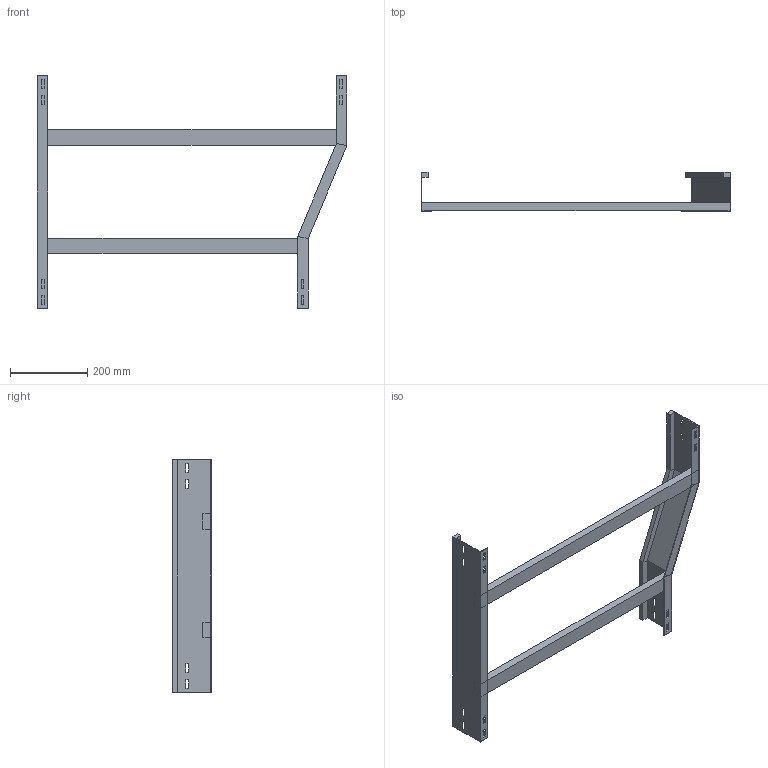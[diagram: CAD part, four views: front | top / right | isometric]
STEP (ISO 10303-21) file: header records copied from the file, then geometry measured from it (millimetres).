
FILE_DESCRIPTION (( 'STEP AP214' ), '1' );
FILE_NAME ('B2X22B7D800XX.step', '2025-09-02T17:20:10', ( '' ), ( '' ), 'SwSTEP 2.0', 'SolidWorks 2023', '' );
FILE_SCHEMA (( 'AUTOMOTIVE_DESIGN' ));
Length unit declared in the file: millimetre
Products named in the file (5): SPONDA DRITTA_H100; TRAVERSINO_800; TRAVERSINO_700; SPONDA RID. SX 800-700_H100; B2X22B7D800XX
Assembly tree (4 placements, depth 2):
  B2X22B7D800XX
    SPONDA DRITTA_H100
    TRAVERSINO_700
    TRAVERSINO_800
    SPONDA RID. SX 800-700_H100
Bounding box: 800 x 100 x 600 mm (x, y, z)
Volume: 1742832 mm3; surface area: 531388 mm2
Topology: 4 solids, 4 shells, 112 faces, 296 edges, 192 vertices
Faces by surface type: plane 112
Entity records: 3590 total; most frequent: CARTESIAN_POINT 607, ORIENTED_EDGE 592, DIRECTION 534, EDGE_CURVE 296, LINE 296, VECTOR 296, VERTEX_POINT 192, EDGE_LOOP 144
